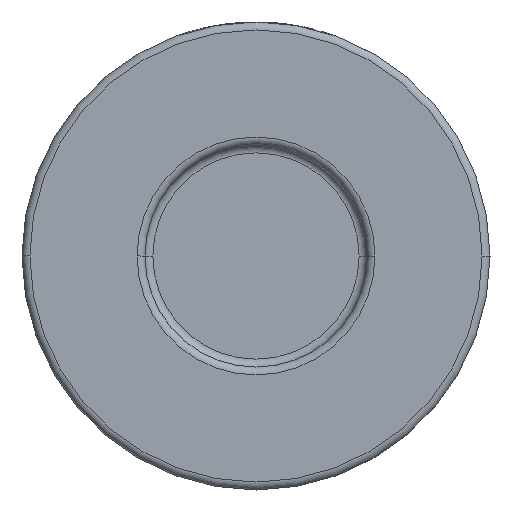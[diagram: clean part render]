
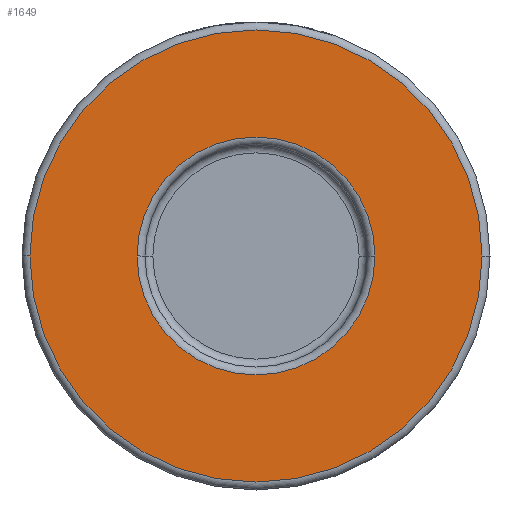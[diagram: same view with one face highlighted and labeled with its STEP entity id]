
A CAD part, front view. The second image highlights one B-rep face of the part: STEP entity #1649.
In plain terms, the highlighted planar face has unit normal (0, -1, 0).
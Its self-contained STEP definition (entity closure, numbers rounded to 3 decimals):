
#55 = CARTESIAN_POINT ( 'NONE',  ( -15., -19., 0. ) ) ;
#56 = VERTEX_POINT ( 'NONE', #55 ) ;
#74 = DIRECTION ( 'NONE',  ( 0., 1., 0. ) ) ;
#349 = CARTESIAN_POINT ( 'NONE',  ( 28.5, -19., 0. ) ) ;
#368 = ORIENTED_EDGE ( 'NONE', *, *, #3001, .T. ) ;
#408 = EDGE_LOOP ( 'NONE', ( #3161, #1784 ) ) ;
#666 = DIRECTION ( 'NONE',  ( 0., -1., 0. ) ) ;
#788 = CARTESIAN_POINT ( 'NONE',  ( -28.5, -19., 0. ) ) ;
#795 = FACE_BOUND ( 'NONE', #408, .T. ) ;
#869 = CIRCLE ( 'NONE', #1300, 28.5 ) ;
#1082 = CIRCLE ( 'NONE', #3395, 28.5 ) ;
#1300 = AXIS2_PLACEMENT_3D ( 'NONE', #4194, #666, #4125 ) ;
#1426 = CARTESIAN_POINT ( 'NONE',  ( 29.5, -19., 0. ) ) ;
#1587 = DIRECTION ( 'NONE',  ( 0., 1., 0. ) ) ;
#1590 = AXIS2_PLACEMENT_3D ( 'NONE', #1426, #2812, #4182 ) ;
#1649 = ADVANCED_FACE ( 'NONE', ( #795, #3099 ), #3126, .T. ) ;
#1663 = CIRCLE ( 'NONE', #2024, 15. ) ;
#1669 = AXIS2_PLACEMENT_3D ( 'NONE', #2164, #74, #1831 ) ;
#1784 = ORIENTED_EDGE ( 'NONE', *, *, #2756, .T. ) ;
#1831 = DIRECTION ( 'NONE',  ( 1., 0., 0. ) ) ;
#1929 = CARTESIAN_POINT ( 'NONE',  ( 0., -19., 0. ) ) ;
#2024 = AXIS2_PLACEMENT_3D ( 'NONE', #1929, #1587, #2964 ) ;
#2164 = CARTESIAN_POINT ( 'NONE',  ( 0., -19., 0. ) ) ;
#2576 = DIRECTION ( 'NONE',  ( 1., 0., 0. ) ) ;
#2756 = EDGE_CURVE ( 'NONE', #56, #3208, #1663, .T. ) ;
#2812 = DIRECTION ( 'NONE',  ( 0., -1., 0. ) ) ;
#2893 = CARTESIAN_POINT ( 'NONE',  ( 0., -19., 0. ) ) ;
#2950 = VERTEX_POINT ( 'NONE', #788 ) ;
#2964 = DIRECTION ( 'NONE',  ( 1., 0., 0. ) ) ;
#3001 = EDGE_CURVE ( 'NONE', #3299, #2950, #1082, .T. ) ;
#3018 = ORIENTED_EDGE ( 'NONE', *, *, #3507, .T. ) ;
#3038 = EDGE_LOOP ( 'NONE', ( #368, #3018 ) ) ;
#3099 = FACE_OUTER_BOUND ( 'NONE', #3038, .T. ) ;
#3126 = PLANE ( 'NONE',  #1590 ) ;
#3161 = ORIENTED_EDGE ( 'NONE', *, *, #3968, .T. ) ;
#3208 = VERTEX_POINT ( 'NONE', #4375 ) ;
#3265 = CIRCLE ( 'NONE', #1669, 15. ) ;
#3299 = VERTEX_POINT ( 'NONE', #349 ) ;
#3395 = AXIS2_PLACEMENT_3D ( 'NONE', #2893, #3980, #2576 ) ;
#3507 = EDGE_CURVE ( 'NONE', #2950, #3299, #869, .T. ) ;
#3968 = EDGE_CURVE ( 'NONE', #3208, #56, #3265, .T. ) ;
#3980 = DIRECTION ( 'NONE',  ( 0., -1., 0. ) ) ;
#4125 = DIRECTION ( 'NONE',  ( 1., 0., 0. ) ) ;
#4182 = DIRECTION ( 'NONE',  ( 1., 0., 0. ) ) ;
#4194 = CARTESIAN_POINT ( 'NONE',  ( 0., -19., 0. ) ) ;
#4375 = CARTESIAN_POINT ( 'NONE',  ( 15., -19., 0. ) ) ;
